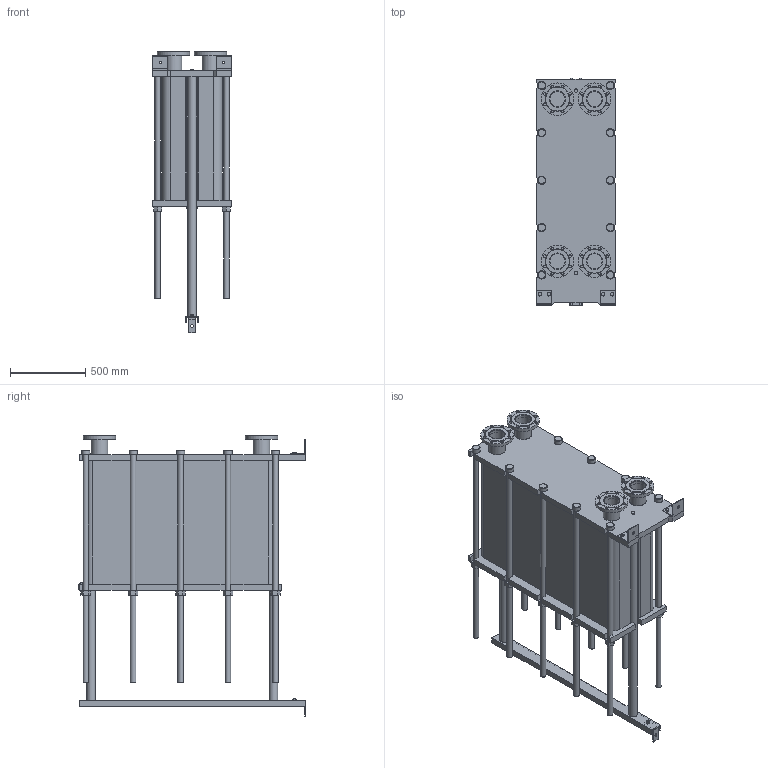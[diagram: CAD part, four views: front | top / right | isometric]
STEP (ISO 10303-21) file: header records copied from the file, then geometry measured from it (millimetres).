
FILE_DESCRIPTION(/* description */ (''),/* implementation_level */ '2;1');
FILE_NAME(/* name */ 'C:\Users\zhuro\Desktop\ENCO\TO\ЭН-04\ЭН-0,5-04-237-1.stp',/* time_stamp */ '2022-06-06T11:06:04+03:00',/* author */ ('zhuro'),/* organization */ (''),/* preprocessor_version */ 'ST-DEVELOPER v18.1',/* originating_system */ 'Autodesk Inventor 2022',/* authorisation */ '');
FILE_SCHEMA (('AUTOMOTIVE_DESIGN { 1 0 10303 214 3 1 1 }'));
Length unit declared in the file: millimetre
Products named in the file (1): ЭН-0,5-04-237-1
Bounding box: 520 x 1510 x 1868.5 mm (x, y, z)
Volume: 487206326.2 mm3; surface area: 11367904.9 mm2
Topology: 45 solids, 45 shells, 668 faces, 1611 edges, 1048 vertices
Faces by surface type: plane 457, cylinder 166, cone 39, torus 6
Full cylindrical faces by diameter (mm): 8 x4, 10 x2, 16 x8, 18 x35, 36 x25, 40 x2, 42 x1, 45 x4, 54 x10, 57 x2, 60 x10, 68 x2, 100 x4, 110 x8, 215 x4
Entity records: 23607 total; most frequent: CARTESIAN_POINT 7348, DIRECTION 3371, ORIENTED_EDGE 3142, EDGE_CURVE 1571, AXIS2_PLACEMENT_3D 1199, VERTEX_POINT 1044, LINE 973, VECTOR 973
